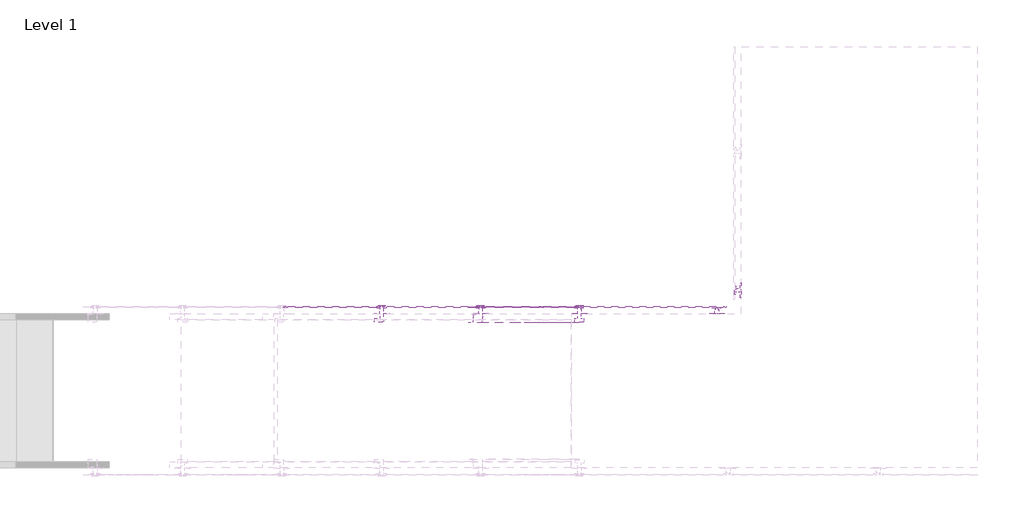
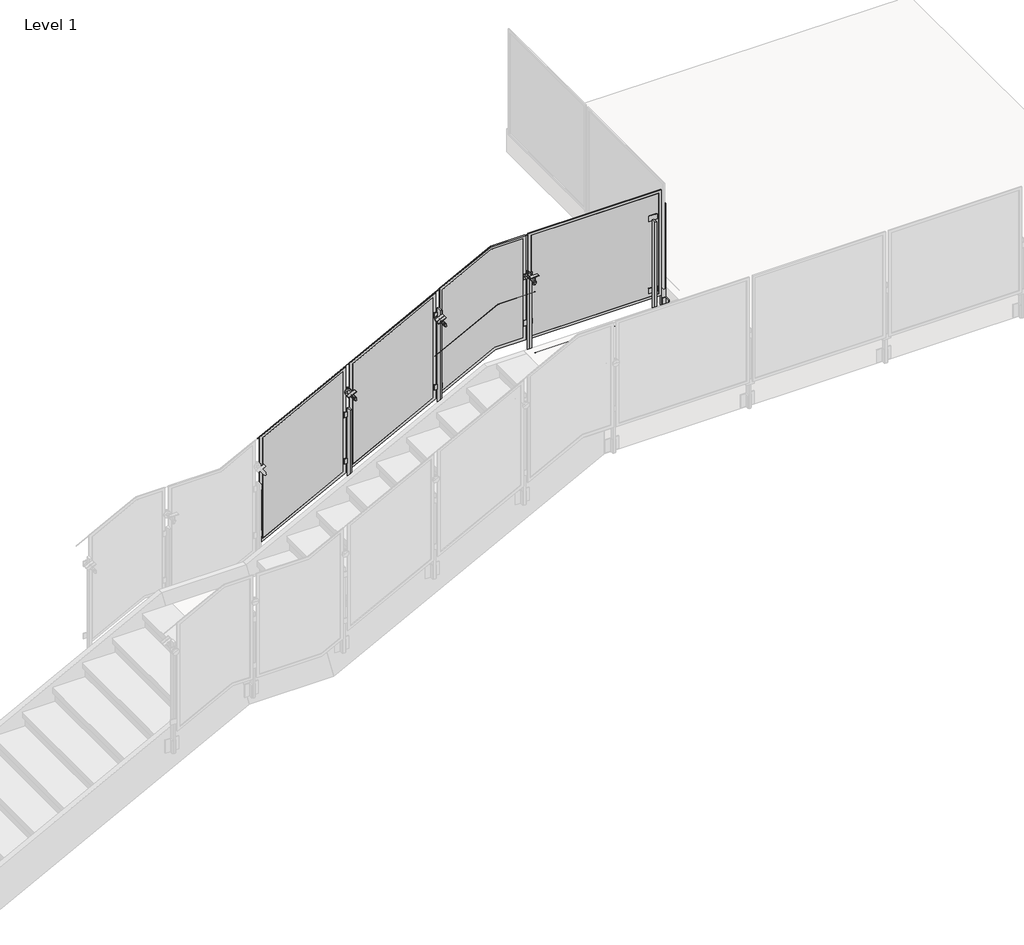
# One storey, part 20 of 28: 4 railings, 3 proxies.
"""IFC4 building model written with IfcOpenShell, lengths in millimetres."""

from ifc_helpers import new_model, si_unit, point, frame, frame_2d, origin, place, context, project, spatial, polyline, circle_curve, ellipse_curve, trimmed, segment, composite_curve, outline, extrude, transform, mapped, element, save
from ifc_brep_helpers import plane_surface, cylinder_surface, advanced_brep
from components import building_element_proxy_f0dd287b, building_element_proxy_bd17ef1f, building_element_proxy_1a12bf55, standard_pp01_b38831fd

model = new_model("IFC4")

# Units and contexts
model_context = context("Model", 3, world=origin())
ifc_project = project(units=[si_unit("LENGTHUNIT", "METRE", prefix="MILLI")], contexts=[model_context])

# Site, building, storey
site = spatial("IfcSite", under=ifc_project)
building = spatial("IfcBuilding", under=site)
storey = spatial("IfcBuildingStorey", under=building, Name="Level 1", Elevation=0.0)

# Proxies
placement = place(None, origin())
building_element_proxy_shape = building_element_proxy_f0dd287b(model_context)
element("IfcBuildingElementProxy", 1, Name="Baluster-End-Post-VIVA-STRUC-Top Mount : WELDED Fascia MOUNT STRUC_STRAIGHT", ObjectType="Baluster-End-Post-VIVA-STRUC-Top Mount : WELDED Fascia MOUNT STRUC_STRAIGHT", at=placement, inside=storey, context=model_context, shape_type="MappedRepresentation", body=[
    mapped(building_element_proxy_shape, transform((-11019.5500753, -2683.1405696, 3047.492), x_axis=(-1.0, 0.0, 0.0), y_axis=(0.0, -1.0, 0.0), z_axis=(0.0, 0.0, 1.0))),
])
building_element_proxy_2_shape = building_element_proxy_bd17ef1f(model_context)
element("IfcBuildingElementProxy", 2, Name="Baluster-End-Post-VIVA-STRUC-Top Mount : WELDED Fascia MOUNT STRUC_STRAIGHT", ObjectType="Baluster-End-Post-VIVA-STRUC-Top Mount : WELDED Fascia MOUNT STRUC_STRAIGHT", at=placement, inside=storey, context=model_context, shape_type="MappedRepresentation", body=[
    mapped(building_element_proxy_2_shape, transform((-10837.0049728, -2506.3726508, 3047.492), x_axis=(0.0, -1.0, 0.0), y_axis=(1.0, 0.0, 0.0), z_axis=(0.0, 0.0, 1.0))),
])
building_element_proxy_3_shape = building_element_proxy_1a12bf55(model_context)
element("IfcBuildingElementProxy", 3, Name="Baluster-End-Post-VIVA-STRUC-Top Mount-Stair : WELDED Fascia MOUNT STRUC_STAIR", ObjectType="Baluster-End-Post-VIVA-STRUC-Top Mount-Stair : WELDED Fascia MOUNT STRUC_STAIR", at=placement, inside=storey, context=model_context, shape_type="MappedRepresentation", body=[
    mapped(building_element_proxy_3_shape, transform((-12280.6217998, -2683.1341206, 3645.5604), x_axis=(-1.0, 0.0, 0.0), y_axis=(0.0, -1.0, 0.0), z_axis=(0.0, 0.0, 1.0))),
])

# Railings
element("IfcRailing", 4, ObjectType="Metal-Panel-VIVA-STRUC-Fascia-Straight", at=placement, inside=storey, context=model_context, shape_type="SweptSolid", body=[
    extrude(outline(composite_curve([segment(trimmed(circle_curve(frame_2d((-2683.1405696, 3047.746)), 0.254), [point((-2683.3945696, 3047.746))], [point((-2682.8865696, 3047.746))], False, "CARTESIAN"), True, "CONTINUOUS"), segment(trimmed(circle_curve(frame_2d((-2683.1405696, 3047.746)), 0.254), [point((-2682.8865696, 3047.746))], [point((-2683.3945696, 3047.746))], False, "CARTESIAN"), True, "CONTINUOUS")], self_intersect=False)), frame((-12289.5500753, 0.0, 0.0), z_axis=(1.0, 0.0, 0.0), x_axis=(0.0, 1.0, 0.0)), (0.0, 0.0, 1.0), 1270.0),
    extrude(outline(composite_curve([segment(trimmed(circle_curve(frame_2d((-2683.1405696, 3047.746)), 0.254), [point((-2683.3945696, 3047.746))], [point((-2682.8865696, 3047.746))], False, "CARTESIAN"), True, "CONTINUOUS"), segment(trimmed(circle_curve(frame_2d((-2683.1405696, 3047.746)), 0.254), [point((-2682.8865696, 3047.746))], [point((-2683.3945696, 3047.746))], False, "CARTESIAN"), True, "CONTINUOUS")], self_intersect=False)), frame((-12289.5500753, 0.0, 0.0), z_axis=(1.0, 0.0, 0.0), x_axis=(0.0, 1.0, 0.0)), (0.0, 0.0, 1.0), 1270.0),
    extrude(outline(polyline([(-12248.7236183, -2553.4467696), (-11060.3765322, -2553.4467696), (-11060.3765322, -2556.4467696), (-12248.7236183, -2556.4467696), (-12248.7236183, -2553.4467696)])), frame((0.0, 0.0, 3124.1959569), z_axis=(0.0, 0.0, 1.0), x_axis=(1.0, 0.0, 0.0)), (0.0, 0.0, 1.0), 990.5826861),
    extrude(outline(polyline([(4140.1786431, -12274.1236183), (3098.7959569, -12274.1236183), (3098.7959569, -11034.9765322), (4140.1786431, -11034.9765322), (4140.1786431, -12274.1236183)]), holes=[polyline([(3124.1959569, -12248.7236183), (4114.7786431, -12248.7236183), (4114.7786431, -11060.3765322), (3124.1959569, -11060.3765322), (3124.1959569, -12248.7236183)])]), frame((0.0, -2556.4467696, 0.0), z_axis=(0.0, 1.0, 0.0), x_axis=(0.0, 0.0, 1.0)), (0.0, 0.0, 1.0), 9.525),
])
element("IfcRailing", 5, ObjectType="Metal-Panel-VIVA-STRUC-Fascia-Stairs-Upper", at=placement, inside=storey, context=model_context, shape_type="SolidModel", body=[
    advanced_brep(
    [(-14795.2265621, -2552.3953206, 3002.0818907), (-14795.2265621, -2551.3953206, 3002.0818907), (-13118.8265621, -2552.3953206, 3872.9390336), (-13118.8265621, -2551.3953206, 3872.9390336)],
    [
        (0, 1, ellipse_curve(frame((-14795.2265621, -2551.8953206, 3002.0818907), z_axis=(-1.0, 0.0, 0.0), x_axis=(0.0, 0.0, -1.0)), 0.5634403, 0.5)),
        (1, 0, ellipse_curve(frame((-14795.2265621, -2551.8953206, 3002.0818907), z_axis=(-1.0, 0.0, 0.0), x_axis=(0.0, 0.0, -1.0)), 0.5634403, 0.5)),
        (2, 3, ellipse_curve(frame((-13118.8265621, -2551.8953206, 3872.9390336), z_axis=(1.0, 0.0, 0.0), x_axis=(0.0, 0.0, -1.0)), 0.5634403, 0.5)),
        (3, 2, ellipse_curve(frame((-13118.8265621, -2551.8953206, 3872.9390336), z_axis=(1.0, 0.0, 0.0), x_axis=(0.0, 0.0, -1.0)), 0.5634403, 0.5)),
        (0, 2),
        (3, 1),
    ],
    [
        plane_surface(frame((-14795.2265621, -2551.8953206, 3002.6453311), z_axis=(-1.0, 0.0, 0.0), x_axis=(0.0, 1.0, 0.0))),
        plane_surface(frame((-13118.8265621, -2551.8953206, 3873.5024739), z_axis=(1.0, 0.0, 0.0), x_axis=(0.0, 1.0, 0.0))),
        cylinder_surface(frame((-14794.9960672, -2551.8953206, 3002.2016284), z_axis=(-0.8874054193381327, 0.0, -0.46098982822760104), x_axis=(0.0, 1.0, 0.0)), 0.5),
    ],
    [
        (0, [[1, 2]]),
        (1, [[3, 4]]),
        (2, [[-1, 5, -4, 6]]),
        (2, [[-2, -6, -3, -5]]),
    ],
),
    extrude(outline(polyline([(2443.6978914, -13912.5806052), (2832.9488452, -13163.2725191), (3819.3458682, -13163.2725191), (3430.0949144, -13912.5806052), (2443.6978914, -13912.5806052)])), frame((0.0, -2556.4403206, 0.0), z_axis=(0.0, 1.0, 0.0), x_axis=(0.0, 0.0, 1.0)), (0.0, 0.0, 1.0), 3.0),
    extrude(outline(polyline([(3445.5228778, -13937.9806052), (2401.8803176, -13937.9806052), (2817.5208818, -13137.8725191), (3861.1634421, -13137.8725191), (3445.5228778, -13937.9806052)]), holes=[polyline([(2443.6978914, -13912.5806052), (3430.0949144, -13912.5806052), (3819.3458682, -13163.2725191), (2832.9488452, -13163.2725191), (2443.6978914, -13912.5806052)])]), frame((0.0, -2556.4403206, 0.0), z_axis=(0.0, 1.0, 0.0), x_axis=(0.0, 0.0, 1.0)), (0.0, 0.0, 1.0), 9.525),
    extrude(outline(composite_curve([segment(trimmed(circle_curve(frame_2d((19.0451472, -1e-07)), 22.0448871), [point((-2.99974, -1e-07))], [point((24.3499072, 21.3971158))], False, "CARTESIAN"), True, "CONTINUOUS"), segment(polyline([(24.3499072, 21.3971158), (23.6280664, 18.4855208)]), True, "CONTINUOUS"), segment(trimmed(circle_curve(frame_2d((19.0451472, -1e-07)), 19.0451471), [point((23.6280664, 18.4855208))], [point((0.0, 0.0))], True, "CARTESIAN"), True, "CONTINUOUS"), segment(polyline([(0.0, 0.0), (-2.99974, -1e-07)]), True, "CONTINUOUS")], self_intersect=False)), frame((-14019.5142726, -2650.6589206, 3210.0400993), z_axis=(0.8874054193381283, 0.0, 0.46098982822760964), x_axis=(-0.28405456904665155, -0.7876022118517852, 0.5468050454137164)), (0.0, 0.0, 1.0), 79.1184357),
    advanced_brep(
    [(-13944.6293845, -2665.6589206, 3151.7003356), (-13944.6293845, -2658.5151706, 3151.7003356), (-13944.6293845, -2672.8026706, 3151.7003356), (-13980.4886307, -2658.5151706, 3220.7293846), (-13980.4886307, -2665.6589206, 3220.7293846), (-13980.4886307, -2672.8026706, 3220.7293846)],
    [
        (0, 1),
        (1, 2, circle_curve(frame((-13944.6293845, -2665.6589206, 3151.7003356), z_axis=(0.46098982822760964, 0.0, -0.8874054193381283), x_axis=(0.0, -1.0, 0.0)), 7.14375)),
        (2, 0),
        (3, 4),
        (4, 5),
        (5, 3, circle_curve(frame((-13980.4886307, -2665.6589206, 3220.7293846), z_axis=(-0.46098982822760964, 0.0, 0.8874054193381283), x_axis=(0.0, -1.0, 0.0)), 7.14375)),
        (2, 1, circle_curve(frame((-13944.6293845, -2665.6589206, 3151.7003356), z_axis=(0.46098982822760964, 0.0, -0.8874054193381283), x_axis=(0.0, -1.0, 0.0)), 7.14375)),
        (3, 5, circle_curve(frame((-13980.4886307, -2665.6589206, 3220.7293846), z_axis=(-0.46098982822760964, 0.0, 0.8874054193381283), x_axis=(0.0, -1.0, 0.0)), 7.14375)),
        (1, 3),
        (5, 2),
    ],
    [
        plane_surface(frame((-13944.6293845, -2665.6589206, 3151.7003356), z_axis=(0.4609898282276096, 0.0, -0.8874054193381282), x_axis=(0.0, -1.0, 0.0))),
        plane_surface(frame((-13980.4886307, -2665.6589206, 3220.7293846), z_axis=(-0.4609898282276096, 0.0, 0.8874054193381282), x_axis=(0.0, -1.0, 0.0))),
        cylinder_surface(frame((-13827.6751846, -2665.6589206, 2926.5635008), z_axis=(0.46098982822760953, 0.0, -0.8874054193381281), x_axis=(0.0, -1.0, 0.0)), 7.14375),
    ],
    [
        (0, [[1, 2, 3]]),
        (1, [[4, 5, 6]]),
        (0, [[-3, 7, -1]]),
        (1, [[-5, -4, 8]]),
        (2, [[9, -6, 10, -2]]),
        (2, [[-10, -8, -9, -7]]),
    ],
),
    advanced_brep(
    [(-13930.2601962, -2546.9139206, 3189.4695082), (-13951.3915377, -2546.9139206, 3178.4921879), (-13962.6615865, -2546.9139206, 3172.6376171), (-13983.7929281, -2546.9139206, 3161.6602968), (-13930.2601962, -2538.9764206, 3189.4695082), (-13983.7929281, -2538.9764206, 3161.6602968), (-13930.2601962, -2564.3764206, 3189.4695082), (-13945.7565133, -2564.3764206, 3181.4194733), (-13968.2966109, -2564.3764206, 3169.7103317), (-13983.7929281, -2564.3764206, 3161.6602968), (-13930.2601962, -2556.4389206, 3189.4695082), (-13983.7929281, -2556.4389206, 3161.6602968), (-13957.0265621, -2538.9764206, 3175.5649025), (-13945.7565133, -2676.3776643, 3181.4194733), (-13957.0265621, -2676.3776643, 3175.5649025), (-13968.2966109, -2676.3776643, 3169.7103317), (-13951.3915377, -2556.4389206, 3178.4921879), (-13962.6615865, -2556.4389206, 3172.6376171)],
    [
        (0, 1),
        (1, 2, circle_curve(frame((-13957.0265621, -2546.9139206, 3175.5649025), z_axis=(0.0, 1.0, 0.0), x_axis=(-0.8874054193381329, 0.0, -0.46098982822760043)), 6.35)),
        (2, 3),
        (3, 0, circle_curve(frame((-13957.0265621, -2546.9139206, 3175.5649025), z_axis=(0.0, -1.0, 0.0), x_axis=(-0.8874054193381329, 0.0, -0.46098982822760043)), 30.1625)),
        (4, 0),
        (3, 5),
        (5, 4, circle_curve(frame((-13957.0265621, -2538.9764206, 3175.5649025), z_axis=(0.0, -1.0, 0.0), x_axis=(-0.8874054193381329, 0.0, -0.46098982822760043)), 30.1625)),
        (6, 7),
        (7, 8, circle_curve(frame((-13957.0265621, -2564.3764206, 3175.5649025), z_axis=(0.0, 1.0, 0.0), x_axis=(-0.8874054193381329, 0.0, -0.46098982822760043)), 12.7)),
        (8, 9),
        (9, 6, circle_curve(frame((-13957.0265621, -2564.3764206, 3175.5649025), z_axis=(0.0, -1.0, 0.0), x_axis=(-0.8874054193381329, 0.0, -0.46098982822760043)), 30.1625)),
        (10, 6),
        (9, 11),
        (11, 10, circle_curve(frame((-13957.0265621, -2556.4389206, 3175.5649025), z_axis=(0.0, -1.0, 0.0), x_axis=(-0.8874054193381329, 0.0, -0.46098982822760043)), 30.1625)),
        (3, 0, circle_curve(frame((-13957.0265621, -2546.9139206, 3175.5649025), z_axis=(0.0, 1.0, 0.0), x_axis=(-0.8874054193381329, 0.0, -0.46098982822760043)), 30.1625)),
        (4, 5, circle_curve(frame((-13957.0265621, -2538.9764206, 3175.5649025), z_axis=(0.0, -1.0, 0.0), x_axis=(-0.8874054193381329, 0.0, -0.46098982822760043)), 30.1625)),
        (12, 4),
        (5, 12),
        (13, 14),
        (14, 15),
        (15, 13, circle_curve(frame((-13957.0265621, -2676.3776643, 3175.5649025), z_axis=(0.0, -1.0, 0.0), x_axis=(-0.8874054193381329, 0.0, -0.46098982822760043)), 12.7)),
        (13, 15, circle_curve(frame((-13957.0265621, -2676.3776643, 3175.5649025), z_axis=(0.0, -1.0, 0.0), x_axis=(-0.8874054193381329, 0.0, -0.46098982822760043)), 12.7)),
        (7, 13),
        (15, 8),
        (7, 8, circle_curve(frame((-13957.0265621, -2564.3764206, 3175.5649025), z_axis=(0.0, -1.0, 0.0), x_axis=(-0.8874054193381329, 0.0, -0.46098982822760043)), 12.7)),
        (6, 9, circle_curve(frame((-13957.0265621, -2564.3764206, 3175.5649025), z_axis=(0.0, -1.0, 0.0), x_axis=(-0.8874054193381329, 0.0, -0.46098982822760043)), 30.1625)),
        (10, 11, circle_curve(frame((-13957.0265621, -2556.4389206, 3175.5649025), z_axis=(0.0, -1.0, 0.0), x_axis=(-0.8874054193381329, 0.0, -0.46098982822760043)), 30.1625)),
        (16, 10),
        (11, 17),
        (17, 16, circle_curve(frame((-13957.0265621, -2556.4389206, 3175.5649025), z_axis=(0.0, -1.0, 0.0), x_axis=(-0.8874054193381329, 0.0, -0.46098982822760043)), 6.35)),
        (16, 17, circle_curve(frame((-13957.0265621, -2556.4389206, 3175.5649025), z_axis=(0.0, -1.0, 0.0), x_axis=(-0.8874054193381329, 0.0, -0.46098982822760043)), 6.35)),
        (1, 16),
        (17, 2),
        (1, 2, circle_curve(frame((-13957.0265621, -2546.9139206, 3175.5649025), z_axis=(0.0, -1.0, 0.0), x_axis=(-0.8874054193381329, 0.0, -0.46098982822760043)), 6.35)),
    ],
    [
        plane_surface(frame((-13957.0265621, -2546.9139206, 3175.5649025), z_axis=(0.0, -1.0, 0.0), x_axis=(-0.8874054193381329, 0.0, -0.46098982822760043))),
        cylinder_surface(frame((-13957.0265621, -1032.4389206, 3175.5649025), z_axis=(0.0, 1.0, 0.0), x_axis=(-0.8874054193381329, 0.0, -0.46098982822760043)), 30.1625),
        plane_surface(frame((-13957.0265621, -2564.3764206, 3175.5649025), z_axis=(0.0, -1.0, 0.0), x_axis=(-0.8874054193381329, 0.0, -0.46098982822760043))),
        plane_surface(frame((-13957.0265621, -2538.9764206, 3175.5649025), z_axis=(0.0, 1.0, 0.0), x_axis=(-0.8874054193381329, 0.0, -0.46098982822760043))),
        plane_surface(frame((-13957.0265621, -2676.3776643, 3175.5649025), z_axis=(0.0, -1.0, 0.0), x_axis=(-0.8874054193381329, 0.0, -0.46098982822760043))),
        cylinder_surface(frame((-13957.0265621, -1032.4389206, 3175.5649025), z_axis=(0.0, 1.0, 0.0), x_axis=(-0.8874054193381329, 0.0, -0.46098982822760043)), 12.7),
        plane_surface(frame((-13957.0265621, -2556.4389206, 3175.5649025), z_axis=(0.0, 1.0, 0.0), x_axis=(-0.8874054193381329, 0.0, -0.46098982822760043))),
        cylinder_surface(frame((-13957.0265621, -1032.4389206, 3175.5649025), z_axis=(0.0, 1.0, 0.0), x_axis=(-0.8874054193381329, 0.0, -0.46098982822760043)), 6.35),
    ],
    [
        (0, [[1, 2, 3, 4]]),
        (1, [[5, -4, 6, 7]]),
        (2, [[8, 9, 10, 11]]),
        (1, [[12, -11, 13, 14]]),
        (1, [[-6, 15, -5, 16]]),
        (3, [[17, -7, 18]]),
        (3, [[-18, -16, -17]]),
        (4, [[19, 20, 21]]),
        (4, [[-20, -19, 22]]),
        (5, [[23, -21, 24, -9]]),
        (5, [[-24, -22, -23, 25]]),
        (2, [[-10, -25, -8, 26]]),
        (1, [[-13, -26, -12, 27]]),
        (6, [[28, -14, 29, 30]]),
        (6, [[-29, -27, -28, 31]]),
        (7, [[32, -30, 33, -2]]),
        (7, [[-33, -31, -32, 34]]),
        (0, [[-3, -34, -1, -15]]),
    ],
),
    extrude(outline(polyline([(-13995.1272814, -2563.5509206), (-13995.1272814, -2556.4389206), (-13918.9258429, -2556.4389206), (-13918.9258429, -2563.5509206), (-13995.1272814, -2563.5509206)])), frame((0.0, 0.0, 2931.2507143), z_axis=(0.0, 0.0, 1.0), x_axis=(1.0, 0.0, 0.0)), (0.0, 0.0, 1.0), 50.8),
    extrude(outline(polyline([(-13995.1272814, -2563.5509206), (-13995.1272814, -2556.4389206), (-13918.9258429, -2556.4389206), (-13918.9258429, -2563.5509206), (-13995.1272814, -2563.5509206)])), frame((0.0, 0.0, 2474.0507143), z_axis=(0.0, 0.0, 1.0), x_axis=(1.0, 0.0, 0.0)), (0.0, 0.0, 1.0), 50.8),
    extrude(outline(polyline([(-13949.0911538, -2569.3929206), (-13941.0901538, -2569.3929206), (-13941.0901538, -2603.1749206), (-13893.5306322, -2603.1749206), (-13893.5306322, -2611.3029206), (-13949.0911538, -2611.3029206), (-13949.0911538, -2569.3929206)])), frame((0.0, 0.0, 2178.6995143), z_axis=(0.0, 0.0, 1.0), x_axis=(1.0, 0.0, 0.0)), (0.0, 0.0, 1.0), 127.0),
    extrude(outline(polyline([(-13964.9661538, -2569.3929206), (-13964.9661538, -2611.3029206), (-14020.5266753, -2611.3029206), (-14020.5266753, -2603.1749206), (-13972.9671538, -2603.1749206), (-13972.9671538, -2569.3929206), (-13964.9661538, -2569.3929206)])), frame((0.0, 0.0, 2178.6995143), z_axis=(0.0, 0.0, 1.0), x_axis=(1.0, 0.0, 0.0)), (0.0, 0.0, 1.0), 127.0),
    extrude(outline(polyline([(-13964.9661538, -2608.0009206), (-13964.9661538, -2563.5509206), (-13949.0869705, -2563.5509206), (-13949.0869705, -2608.0009206), (-13964.9661538, -2608.0009206)])), frame((0.0, 0.0, 2178.6995143), z_axis=(0.0, 0.0, 1.0), x_axis=(1.0, 0.0, 0.0)), (0.0, 0.0, 1.0), 842.9752),
    extrude(outline(polyline([(2008.26932, -14750.7806052), (2397.5202738, -14001.4725191), (3383.9172968, -14001.4725191), (2994.666343, -14750.7806052), (2008.26932, -14750.7806052)])), frame((0.0, -2556.4403206, 0.0), z_axis=(0.0, 1.0, 0.0), x_axis=(0.0, 0.0, 1.0)), (0.0, 0.0, 1.0), 3.0),
    extrude(outline(polyline([(3010.0943064, -14776.1806052), (1966.4517462, -14776.1806052), (2382.0923104, -13976.0725191), (3425.7348706, -13976.0725191), (3010.0943064, -14776.1806052)]), holes=[polyline([(2008.26932, -14750.7806052), (2994.666343, -14750.7806052), (3383.9172968, -14001.4725191), (2397.5202738, -14001.4725191), (2008.26932, -14750.7806052)])]), frame((0.0, -2556.4403206, 0.0), z_axis=(0.0, 1.0, 0.0), x_axis=(0.0, 0.0, 1.0)), (0.0, 0.0, 1.0), 9.525),
])
element("IfcRailing", 6, ObjectType="Metal-Panel-VIVA-STRUC-Fascia-Stairs-Landing-Upper", at=placement, inside=storey, context=model_context, shape_type="SolidModel", body=[
    advanced_brep(
    [(-13220.4217998, -2683.3881206, 3339.0078994), (-13220.4217998, -2682.8801206, 3339.0078994), (-12629.8192861, -2683.3881206, 3645.8144), (-12629.8192861, -2682.8801206, 3645.8144), (-12280.6217998, -2683.3881206, 3645.8144), (-12280.6217998, -2682.8801206, 3645.8144)],
    [
        (0, 1, ellipse_curve(frame((-13220.4217998, -2683.1341206, 3339.0078994), z_axis=(-1.0, 0.0, 0.0), x_axis=(0.0, 0.0, -0.9999999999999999)), 0.2862277, 0.254)),
        (1, 0, ellipse_curve(frame((-13220.4217998, -2683.1341206, 3339.0078994), z_axis=(-1.0, 0.0, 0.0), x_axis=(0.0, 0.0, -0.9999999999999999)), 0.2862277, 0.254)),
        (0, 2),
        (2, 3, ellipse_curve(frame((-12629.8192861, -2683.1341206, 3645.8144), z_axis=(-0.9714436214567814, 0.0, -0.23727050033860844), x_axis=(0.23727050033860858, 0.0, -0.9714436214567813)), 0.2614665, 0.254)),
        (3, 1),
        (3, 2, ellipse_curve(frame((-12629.8192861, -2683.1341206, 3645.8144), z_axis=(-0.9714436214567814, 0.0, -0.23727050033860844), x_axis=(0.23727050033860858, 0.0, -0.9714436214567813)), 0.2614665, 0.254)),
        (4, 5, circle_curve(frame((-12280.6217998, -2683.1341206, 3645.8144), z_axis=(1.0, 0.0, 0.0), x_axis=(0.0, 1.0, 0.0)), 0.254)),
        (5, 4, circle_curve(frame((-12280.6217998, -2683.1341206, 3645.8144), z_axis=(1.0, 0.0, 0.0), x_axis=(0.0, 1.0, 0.0)), 0.254)),
        (2, 4),
        (5, 3),
    ],
    [
        plane_surface(frame((-13220.4217998, -2683.1341206, 3339.2941271), z_axis=(-1.0, 0.0, 0.0), x_axis=(0.0, 1.0, 0.0))),
        cylinder_surface(frame((-13220.3047084, -2683.1341206, 3339.0687261), z_axis=(-0.8874054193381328, 0.0, -0.4609898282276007), x_axis=(0.0, 1.0, 0.0)), 0.254),
        plane_surface(frame((-12280.6217998, -2683.1341206, 3646.0684), z_axis=(1.0, 0.0, 0.0), x_axis=(0.0, 1.0, 0.0))),
        cylinder_surface(frame((-12629.8813244, -2683.1341206, 3645.8144), z_axis=(-1.0, 0.0, 0.0), x_axis=(0.0, 1.0, 0.0)), 0.254),
    ],
    [
        (0, [[1, 2]]),
        (1, [[-1, 3, 4, 5]]),
        (1, [[-2, -5, 6, -3]]),
        (2, [[7, 8]]),
        (3, [[-4, 9, -8, 10]]),
        (3, [[-6, -10, -7, -9]]),
    ],
),
    advanced_brep(
    [(-13220.4217998, -2552.3953206, 3820.1622867), (-13220.4217998, -2551.3953206, 3820.1622867), (-12629.7592018, -2552.3953206, 4127.0), (-12629.7592018, -2551.3953206, 4127.0), (-12280.6217998, -2552.3953206, 4127.0), (-12280.6217998, -2551.3953206, 4127.0)],
    [
        (0, 1, ellipse_curve(frame((-13220.4217998, -2551.8953206, 3820.1622867), z_axis=(-1.0, 0.0, 0.0), x_axis=(0.0, 0.0, -0.9999999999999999)), 0.5634403, 0.5)),
        (1, 0, ellipse_curve(frame((-13220.4217998, -2551.8953206, 3820.1622867), z_axis=(-1.0, 0.0, 0.0), x_axis=(0.0, 0.0, -0.9999999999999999)), 0.5634403, 0.5)),
        (0, 2),
        (2, 3, ellipse_curve(frame((-12629.7592018, -2551.8953206, 4127.0), z_axis=(-0.9714436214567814, 0.0, -0.23727050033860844), x_axis=(0.23727050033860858, 0.0, -0.9714436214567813)), 0.5146979, 0.5)),
        (3, 1),
        (3, 2, ellipse_curve(frame((-12629.7592018, -2551.8953206, 4127.0), z_axis=(-0.9714436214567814, 0.0, -0.23727050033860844), x_axis=(0.23727050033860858, 0.0, -0.9714436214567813)), 0.5146979, 0.5)),
        (4, 5, circle_curve(frame((-12280.6217998, -2551.8953206, 4127.0), z_axis=(1.0, 0.0, 0.0), x_axis=(0.0, 1.0, 0.0)), 0.5)),
        (5, 4, circle_curve(frame((-12280.6217998, -2551.8953206, 4127.0), z_axis=(1.0, 0.0, 0.0), x_axis=(0.0, 1.0, 0.0)), 0.5)),
        (2, 4),
        (5, 3),
    ],
    [
        plane_surface(frame((-13220.4217998, -2551.8953206, 3820.7257271), z_axis=(-1.0, 0.0, 0.0), x_axis=(0.0, 1.0, 0.0))),
        cylinder_surface(frame((-13220.1913049, -2551.8953206, 3820.2820244), z_axis=(-0.8874054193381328, 0.0, -0.4609898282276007), x_axis=(0.0, 1.0, 0.0)), 0.5),
        plane_surface(frame((-12280.6217998, -2551.8953206, 4127.5), z_axis=(1.0, 0.0, 0.0), x_axis=(0.0, 1.0, 0.0))),
        cylinder_surface(frame((-12629.8813244, -2551.8953206, 4127.0), z_axis=(-1.0, 0.0, 0.0), x_axis=(0.0, 1.0, 0.0)), 0.5),
    ],
    [
        (0, [[1, 2]]),
        (1, [[-1, 3, 4, 5]]),
        (1, [[-2, -5, 6, -3]]),
        (2, [[7, 8]]),
        (3, [[-4, 9, -8, 10]]),
        (3, [[-6, -10, -7, -9]]),
    ],
),
    extrude(outline(composite_curve([segment(trimmed(circle_curve(frame_2d((19.0451471, 0.0)), 22.0448871), [point((-2.9997401, 0.0))], [point((24.3499072, 21.3971159))], False, "CARTESIAN"), True, "CONTINUOUS"), segment(polyline([(24.3499072, 21.3971159), (23.6280664, 18.4855208)]), True, "CONTINUOUS"), segment(trimmed(circle_curve(frame_2d((19.0451471, 0.0)), 19.0451471), [point((23.6280664, 18.4855208))], [point((0.0, 0.0))], True, "CARTESIAN"), True, "CONTINUOUS"), segment(polyline([(0.0, 0.0), (-2.9997401, 0.0)]), True, "CONTINUOUS")], self_intersect=False)), frame((-13181.3095103, -2650.6589206, 3645.4711447), z_axis=(0.8874054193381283, 0.0, 0.46098982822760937), x_axis=(-0.2840545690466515, -0.7876022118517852, 0.5468050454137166)), (0.0, 0.0, 1.0), 79.1184357),
    advanced_brep(
    [(-13106.4246222, -2665.6589206, 3587.1313809), (-13106.4246222, -2658.5151706, 3587.1313809), (-13106.4246222, -2672.8026706, 3587.1313809), (-13142.2838684, -2658.5151706, 3656.16043), (-13142.2838684, -2665.6589206, 3656.16043), (-13142.2838684, -2672.8026706, 3656.16043)],
    [
        (0, 1),
        (1, 2, circle_curve(frame((-13106.4246222, -2665.6589206, 3587.1313809), z_axis=(0.4609898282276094, 0.0, -0.8874054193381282), x_axis=(0.0, -1.0, 0.0)), 7.14375)),
        (2, 0),
        (3, 4),
        (4, 5),
        (5, 3, circle_curve(frame((-13142.2838684, -2665.6589206, 3656.16043), z_axis=(-0.4609898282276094, 0.0, 0.8874054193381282), x_axis=(0.0, -1.0, 0.0)), 7.14375)),
        (2, 1, circle_curve(frame((-13106.4246222, -2665.6589206, 3587.1313809), z_axis=(0.4609898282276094, 0.0, -0.8874054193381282), x_axis=(0.0, -1.0, 0.0)), 7.14375)),
        (3, 5, circle_curve(frame((-13142.2838684, -2665.6589206, 3656.16043), z_axis=(-0.4609898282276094, 0.0, 0.8874054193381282), x_axis=(0.0, -1.0, 0.0)), 7.14375)),
        (1, 3),
        (5, 2),
    ],
    [
        plane_surface(frame((-13106.4246222, -2665.6589206, 3587.1313809), z_axis=(0.4609898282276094, 0.0, -0.8874054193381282), x_axis=(0.0, -1.0, 0.0))),
        plane_surface(frame((-13142.2838684, -2665.6589206, 3656.16043), z_axis=(-0.4609898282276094, 0.0, 0.8874054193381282), x_axis=(0.0, -1.0, 0.0))),
        cylinder_surface(frame((-12989.4704223, -2665.6589206, 3361.9945462), z_axis=(0.4609898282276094, 0.0, -0.8874054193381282), x_axis=(0.0, -1.0, 0.0)), 7.14375),
    ],
    [
        (0, [[1, 2, 3]]),
        (1, [[4, 5, 6]]),
        (0, [[-3, 7, -1]]),
        (1, [[-5, -4, 8]]),
        (2, [[9, -6, 10, -2]]),
        (2, [[-10, -8, -9, -7]]),
    ],
),
    advanced_brep(
    [(-13092.0554339, -2546.9139206, 3624.9005535), (-13113.1867754, -2546.9139206, 3613.9232333), (-13124.4568242, -2546.9139206, 3608.0686624), (-13145.5881658, -2546.9139206, 3597.0913422), (-13092.0554339, -2538.9764206, 3624.9005535), (-13145.5881658, -2538.9764206, 3597.0913422), (-13092.0554339, -2564.3764206, 3624.9005535), (-13107.551751, -2564.3764206, 3616.8505187), (-13130.0918486, -2564.3764206, 3605.141377), (-13145.5881658, -2564.3764206, 3597.0913422), (-13092.0554339, -2556.4389206, 3624.9005535), (-13145.5881658, -2556.4389206, 3597.0913422), (-13118.8217998, -2538.9764206, 3610.9959479), (-13107.551751, -2676.3776643, 3616.8505187), (-13118.8217998, -2676.3776643, 3610.9959479), (-13130.0918486, -2676.3776643, 3605.141377), (-13113.1867754, -2556.4389206, 3613.9232333), (-13124.4568242, -2556.4389206, 3608.0686624)],
    [
        (0, 1),
        (1, 2, circle_curve(frame((-13118.8217998, -2546.9139206, 3610.9959479), z_axis=(0.0, 1.0, 0.0), x_axis=(-0.887405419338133, 0.0, -0.4609898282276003)), 6.35)),
        (2, 3),
        (3, 0, circle_curve(frame((-13118.8217998, -2546.9139206, 3610.9959479), z_axis=(0.0, -1.0, 0.0), x_axis=(-0.887405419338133, 0.0, -0.4609898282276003)), 30.1625)),
        (4, 0),
        (3, 5),
        (5, 4, circle_curve(frame((-13118.8217998, -2538.9764206, 3610.9959479), z_axis=(0.0, -1.0, 0.0), x_axis=(-0.887405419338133, 0.0, -0.4609898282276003)), 30.1625)),
        (6, 7),
        (7, 8, circle_curve(frame((-13118.8217998, -2564.3764206, 3610.9959479), z_axis=(0.0, 1.0, 0.0), x_axis=(-0.887405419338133, 0.0, -0.4609898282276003)), 12.7)),
        (8, 9),
        (9, 6, circle_curve(frame((-13118.8217998, -2564.3764206, 3610.9959479), z_axis=(0.0, -1.0, 0.0), x_axis=(-0.887405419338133, 0.0, -0.4609898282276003)), 30.1625)),
        (10, 6),
        (9, 11),
        (11, 10, circle_curve(frame((-13118.8217998, -2556.4389206, 3610.9959479), z_axis=(0.0, -1.0, 0.0), x_axis=(-0.887405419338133, 0.0, -0.4609898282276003)), 30.1625)),
        (3, 0, circle_curve(frame((-13118.8217998, -2546.9139206, 3610.9959479), z_axis=(0.0, 1.0, 0.0), x_axis=(-0.887405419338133, 0.0, -0.4609898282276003)), 30.1625)),
        (4, 5, circle_curve(frame((-13118.8217998, -2538.9764206, 3610.9959479), z_axis=(0.0, -1.0, 0.0), x_axis=(-0.887405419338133, 0.0, -0.4609898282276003)), 30.1625)),
        (12, 4),
        (5, 12),
        (13, 14),
        (14, 15),
        (15, 13, circle_curve(frame((-13118.8217998, -2676.3776643, 3610.9959479), z_axis=(0.0, -1.0, 0.0), x_axis=(-0.887405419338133, 0.0, -0.4609898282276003)), 12.7)),
        (13, 15, circle_curve(frame((-13118.8217998, -2676.3776643, 3610.9959479), z_axis=(0.0, -1.0, 0.0), x_axis=(-0.887405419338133, 0.0, -0.4609898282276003)), 12.7)),
        (7, 13),
        (15, 8),
        (7, 8, circle_curve(frame((-13118.8217998, -2564.3764206, 3610.9959479), z_axis=(0.0, -1.0, 0.0), x_axis=(-0.887405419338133, 0.0, -0.4609898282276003)), 12.7)),
        (6, 9, circle_curve(frame((-13118.8217998, -2564.3764206, 3610.9959479), z_axis=(0.0, -1.0, 0.0), x_axis=(-0.887405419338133, 0.0, -0.4609898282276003)), 30.1625)),
        (10, 11, circle_curve(frame((-13118.8217998, -2556.4389206, 3610.9959479), z_axis=(0.0, -1.0, 0.0), x_axis=(-0.887405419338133, 0.0, -0.4609898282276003)), 30.1625)),
        (16, 10),
        (11, 17),
        (17, 16, circle_curve(frame((-13118.8217998, -2556.4389206, 3610.9959479), z_axis=(0.0, -1.0, 0.0), x_axis=(-0.887405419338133, 0.0, -0.4609898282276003)), 6.35)),
        (16, 17, circle_curve(frame((-13118.8217998, -2556.4389206, 3610.9959479), z_axis=(0.0, -1.0, 0.0), x_axis=(-0.887405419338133, 0.0, -0.4609898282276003)), 6.35)),
        (1, 16),
        (17, 2),
        (1, 2, circle_curve(frame((-13118.8217998, -2546.9139206, 3610.9959479), z_axis=(0.0, -1.0, 0.0), x_axis=(-0.887405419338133, 0.0, -0.4609898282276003)), 6.35)),
    ],
    [
        plane_surface(frame((-13118.8217998, -2546.9139206, 3610.9959479), z_axis=(0.0, -1.0, 0.0), x_axis=(-0.887405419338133, 0.0, -0.4609898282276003))),
        cylinder_surface(frame((-13118.8217998, -1032.4389206, 3610.9959479), z_axis=(0.0, 1.0, 0.0), x_axis=(-0.887405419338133, 0.0, -0.4609898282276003)), 30.1625),
        plane_surface(frame((-13118.8217998, -2564.3764206, 3610.9959479), z_axis=(0.0, -1.0, 0.0), x_axis=(-0.887405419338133, 0.0, -0.4609898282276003))),
        plane_surface(frame((-13118.8217998, -2538.9764206, 3610.9959479), z_axis=(0.0, 1.0, 0.0), x_axis=(-0.887405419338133, 0.0, -0.4609898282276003))),
        plane_surface(frame((-13118.8217998, -2676.3776643, 3610.9959479), z_axis=(0.0, -1.0, 0.0), x_axis=(-0.887405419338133, 0.0, -0.4609898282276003))),
        cylinder_surface(frame((-13118.8217998, -1032.4389206, 3610.9959479), z_axis=(0.0, 1.0, 0.0), x_axis=(-0.887405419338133, 0.0, -0.4609898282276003)), 12.7),
        plane_surface(frame((-13118.8217998, -2556.4389206, 3610.9959479), z_axis=(0.0, 1.0, 0.0), x_axis=(-0.887405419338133, 0.0, -0.4609898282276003))),
        cylinder_surface(frame((-13118.8217998, -1032.4389206, 3610.9959479), z_axis=(0.0, 1.0, 0.0), x_axis=(-0.887405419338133, 0.0, -0.4609898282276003)), 6.35),
    ],
    [
        (0, [[1, 2, 3, 4]]),
        (1, [[5, -4, 6, 7]]),
        (2, [[8, 9, 10, 11]]),
        (1, [[12, -11, 13, 14]]),
        (1, [[-6, 15, -5, 16]]),
        (3, [[17, -7, 18]]),
        (3, [[-18, -16, -17]]),
        (4, [[19, 20, 21]]),
        (4, [[-20, -19, 22]]),
        (5, [[23, -21, 24, -9]]),
        (5, [[-24, -22, -23, 25]]),
        (2, [[-10, -25, -8, 26]]),
        (1, [[-13, -26, -12, 27]]),
        (6, [[28, -14, 29, 30]]),
        (6, [[-29, -27, -28, 31]]),
        (7, [[32, -30, 33, -2]]),
        (7, [[-33, -31, -32, 34]]),
        (0, [[-3, -34, -1, -15]]),
    ],
),
    extrude(outline(polyline([(-13156.9225191, -2563.5509206), (-13156.9225191, -2556.4389206), (-13080.7210806, -2556.4389206), (-13080.7210806, -2563.5509206), (-13156.9225191, -2563.5509206)])), frame((0.0, 0.0, 3620.6792857), z_axis=(0.0, 0.0, 1.0), x_axis=(1.0, 0.0, 0.0)), (0.0, 0.0, 1.0), 50.8),
    extrude(outline(polyline([(-13156.9225191, -2563.5509206), (-13156.9225191, -2556.4389206), (-13080.7210806, -2556.4389206), (-13080.7210806, -2563.5509206), (-13156.9225191, -2563.5509206)])), frame((0.0, 0.0, 2909.4792857), z_axis=(0.0, 0.0, 1.0), x_axis=(1.0, 0.0, 0.0)), (0.0, 0.0, 1.0), 50.8),
    extrude(outline(composite_curve([segment(trimmed(circle_curve(frame_2d((-19.0451471, 0.0)), 22.0448871), [point((2.9997401, 0.0))], [point((-24.3499072, -21.3971159))], False, "CARTESIAN"), True, "CONTINUOUS"), segment(polyline([(-24.3499072, -21.3971159), (-23.6280664, -18.4855208)]), True, "CONTINUOUS"), segment(trimmed(circle_curve(frame_2d((-19.0451471, 0.0)), 19.0451471), [point((-23.6280664, -18.4855208))], [point((0.0, 0.0))], True, "CARTESIAN"), True, "CONTINUOUS"), segment(polyline([(0.0, 0.0), (2.9997401, 0.0)]), True, "CONTINUOUS")], self_intersect=False)), frame((-13181.3095103, -2617.6389206, 3645.4711447), z_axis=(0.8874054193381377, 0.0, 0.46098982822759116), x_axis=(0.2840545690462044, 0.7876022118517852, -0.5468050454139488)), (0.0, 0.0, 1.0), 79.1184357),
    advanced_brep(
    [(-13106.4246222, -2632.6389206, 3587.1313809), (-13106.4246222, -2639.7826706, 3587.1313809), (-13106.4246222, -2625.4951706, 3587.1313809), (-13142.2838684, -2625.4951706, 3656.16043), (-13142.2838684, -2639.7826706, 3656.16043), (-13142.2838684, -2632.6389206, 3656.16043)],
    [
        (0, 1),
        (1, 2, circle_curve(frame((-13106.4246222, -2632.6389206, 3587.1313809), z_axis=(0.4609898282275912, 0.0, -0.8874054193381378), x_axis=(0.0, -1.0, 0.0)), 7.14375)),
        (2, 0),
        (3, 4, circle_curve(frame((-13142.2838684, -2632.6389206, 3656.16043), z_axis=(-0.4609898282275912, 0.0, 0.8874054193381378), x_axis=(0.0, -1.0, 0.0)), 7.14375)),
        (4, 5),
        (5, 3),
        (2, 1, circle_curve(frame((-13106.4246222, -2632.6389206, 3587.1313809), z_axis=(0.4609898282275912, 0.0, -0.8874054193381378), x_axis=(0.0, -1.0, 0.0)), 7.14375)),
        (4, 3, circle_curve(frame((-13142.2838684, -2632.6389206, 3656.16043), z_axis=(-0.4609898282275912, 0.0, 0.8874054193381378), x_axis=(0.0, -1.0, 0.0)), 7.14375)),
        (1, 4),
        (3, 2),
    ],
    [
        plane_surface(frame((-13106.4246222, -2632.6389206, 3587.1313809), z_axis=(0.4609898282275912, 0.0, -0.8874054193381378), x_axis=(0.0, -1.0, 0.0))),
        plane_surface(frame((-13142.2838684, -2632.6389206, 3656.16043), z_axis=(-0.4609898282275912, 0.0, 0.8874054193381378), x_axis=(0.0, -1.0, 0.0))),
        cylinder_surface(frame((-12989.4704223, -2632.6389206, 3361.9945462), z_axis=(0.4609898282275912, 0.0, -0.8874054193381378), x_axis=(0.0, -1.0, 0.0)), 7.14375),
    ],
    [
        (0, [[1, 2, 3]]),
        (1, [[4, 5, 6]]),
        (0, [[-3, 7, -1]]),
        (1, [[8, -6, -5]]),
        (2, [[-2, 9, -4, 10]]),
        (2, [[-7, -10, -8, -9]]),
    ],
),
    advanced_brep(
    [(-13145.5881658, -2546.9139206, 3597.0913422), (-13092.0554339, -2546.9139206, 3624.9005535), (-13113.1867754, -2546.9139206, 3613.9232333), (-13124.4568242, -2546.9139206, 3608.0686624), (-13145.5881658, -2538.9764206, 3597.0913422), (-13092.0554339, -2538.9764206, 3624.9005535), (-13145.5881658, -2564.3764206, 3597.0913422), (-13092.0554339, -2564.3764206, 3624.9005535), (-13107.551751, -2564.3764206, 3616.8505187), (-13130.0918486, -2564.3764206, 3605.141377), (-13145.5881658, -2556.4389206, 3597.0913422), (-13092.0554339, -2556.4389206, 3624.9005535), (-13118.8217998, -2538.9764206, 3610.9959479), (-13130.0918486, -2643.7514206, 3605.141377), (-13107.551751, -2643.7514206, 3616.8505187), (-13118.8217998, -2643.7514206, 3610.9959479), (-13124.4568242, -2556.4389206, 3608.0686624), (-13113.1867754, -2556.4389206, 3613.9232333)],
    [
        (0, 1, circle_curve(frame((-13118.8217998, -2546.9139206, 3610.9959479), z_axis=(0.0, -1.0, 0.0), x_axis=(0.887405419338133, 0.0, 0.4609898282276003)), 30.1625)),
        (1, 2),
        (2, 3, circle_curve(frame((-13118.8217998, -2546.9139206, 3610.9959479), z_axis=(0.0, 1.0, 0.0), x_axis=(0.887405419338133, 0.0, 0.4609898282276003)), 6.35)),
        (3, 0),
        (4, 5, circle_curve(frame((-13118.8217998, -2538.9764206, 3610.9959479), z_axis=(0.0, -1.0, 0.0), x_axis=(0.887405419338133, 0.0, 0.4609898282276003)), 30.1625)),
        (5, 1),
        (0, 4),
        (6, 7, circle_curve(frame((-13118.8217998, -2564.3764206, 3610.9959479), z_axis=(0.0, -1.0, 0.0), x_axis=(0.887405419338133, 0.0, 0.4609898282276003)), 30.1625)),
        (7, 8),
        (8, 9, circle_curve(frame((-13118.8217998, -2564.3764206, 3610.9959479), z_axis=(0.0, 1.0, 0.0), x_axis=(0.887405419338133, 0.0, 0.4609898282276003)), 12.7)),
        (9, 6),
        (10, 11, circle_curve(frame((-13118.8217998, -2556.4389206, 3610.9959479), z_axis=(0.0, -1.0, 0.0), x_axis=(0.887405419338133, 0.0, 0.4609898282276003)), 30.1625)),
        (11, 7),
        (6, 10),
        (5, 4, circle_curve(frame((-13118.8217998, -2538.9764206, 3610.9959479), z_axis=(0.0, -1.0, 0.0), x_axis=(0.887405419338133, 0.0, 0.4609898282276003)), 30.1625)),
        (0, 1, circle_curve(frame((-13118.8217998, -2546.9139206, 3610.9959479), z_axis=(0.0, 1.0, 0.0), x_axis=(0.887405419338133, 0.0, 0.4609898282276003)), 30.1625)),
        (12, 5),
        (4, 12),
        (13, 14, circle_curve(frame((-13118.8217998, -2643.7514206, 3610.9959479), z_axis=(0.0, -1.0, 0.0), x_axis=(0.887405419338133, 0.0, 0.4609898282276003)), 12.7)),
        (14, 15),
        (15, 13),
        (14, 13, circle_curve(frame((-13118.8217998, -2643.7514206, 3610.9959479), z_axis=(0.0, -1.0, 0.0), x_axis=(0.887405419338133, 0.0, 0.4609898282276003)), 12.7)),
        (8, 14),
        (13, 9),
        (8, 9, circle_curve(frame((-13118.8217998, -2564.3764206, 3610.9959479), z_axis=(0.0, -1.0, 0.0), x_axis=(0.887405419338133, 0.0, 0.4609898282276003)), 12.7)),
        (7, 6, circle_curve(frame((-13118.8217998, -2564.3764206, 3610.9959479), z_axis=(0.0, -1.0, 0.0), x_axis=(0.887405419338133, 0.0, 0.4609898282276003)), 30.1625)),
        (11, 10, circle_curve(frame((-13118.8217998, -2556.4389206, 3610.9959479), z_axis=(0.0, -1.0, 0.0), x_axis=(0.887405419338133, 0.0, 0.4609898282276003)), 30.1625)),
        (16, 17, circle_curve(frame((-13118.8217998, -2556.4389206, 3610.9959479), z_axis=(0.0, -1.0, 0.0), x_axis=(0.887405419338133, 0.0, 0.4609898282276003)), 6.35)),
        (17, 11),
        (10, 16),
        (17, 16, circle_curve(frame((-13118.8217998, -2556.4389206, 3610.9959479), z_axis=(0.0, -1.0, 0.0), x_axis=(0.887405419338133, 0.0, 0.4609898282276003)), 6.35)),
        (2, 17),
        (16, 3),
        (2, 3, circle_curve(frame((-13118.8217998, -2546.9139206, 3610.9959479), z_axis=(0.0, -1.0, 0.0), x_axis=(0.887405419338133, 0.0, 0.4609898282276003)), 6.35)),
    ],
    [
        plane_surface(frame((-13118.8217998, -2546.9139206, 3610.9959479), z_axis=(0.0, -1.0, 0.0), x_axis=(0.887405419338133, 0.0, 0.4609898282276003))),
        cylinder_surface(frame((-13118.8217998, -1032.4389206, 3610.9959479), z_axis=(0.0, 1.0, 0.0), x_axis=(0.887405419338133, 0.0, 0.4609898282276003)), 30.1625),
        plane_surface(frame((-13118.8217998, -2564.3764206, 3610.9959479), z_axis=(0.0, -1.0, 0.0), x_axis=(0.887405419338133, 0.0, 0.4609898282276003))),
        plane_surface(frame((-13118.8217998, -2538.9764206, 3610.9959479), z_axis=(0.0, 1.0, 0.0), x_axis=(0.887405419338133, 0.0, 0.4609898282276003))),
        plane_surface(frame((-13118.8217998, -2643.7514206, 3610.9959479), z_axis=(0.0, -1.0, 0.0), x_axis=(0.887405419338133, 0.0, 0.4609898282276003))),
        cylinder_surface(frame((-13118.8217998, -1032.4389206, 3610.9959479), z_axis=(0.0, 1.0, 0.0), x_axis=(0.887405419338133, 0.0, 0.4609898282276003)), 12.7),
        plane_surface(frame((-13118.8217998, -2556.4389206, 3610.9959479), z_axis=(0.0, 1.0, 0.0), x_axis=(0.887405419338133, 0.0, 0.4609898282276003))),
        cylinder_surface(frame((-13118.8217998, -1032.4389206, 3610.9959479), z_axis=(0.0, 1.0, 0.0), x_axis=(0.887405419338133, 0.0, 0.4609898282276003)), 6.35),
    ],
    [
        (0, [[1, 2, 3, 4]]),
        (1, [[5, 6, -1, 7]]),
        (2, [[8, 9, 10, 11]]),
        (1, [[12, 13, -8, 14]]),
        (1, [[15, -7, 16, -6]]),
        (3, [[17, -5, 18]]),
        (3, [[-18, -15, -17]]),
        (4, [[19, 20, 21]]),
        (4, [[22, -21, -20]]),
        (5, [[-10, 23, -19, 24]]),
        (5, [[25, -24, -22, -23]]),
        (2, [[26, -11, -25, -9]]),
        (1, [[27, -14, -26, -13]]),
        (6, [[28, 29, -12, 30]]),
        (6, [[31, -30, -27, -29]]),
        (7, [[-3, 32, -28, 33]]),
        (7, [[34, -33, -31, -32]]),
        (0, [[-16, -4, -34, -2]]),
    ],
),
    extrude(outline(polyline([(-13110.8863915, -2569.3929206), (-13102.8853915, -2569.3929206), (-13102.8853915, -2603.1749206), (-13055.3258699, -2603.1749206), (-13055.3258699, -2611.3029206), (-13110.8863915, -2611.3029206), (-13110.8863915, -2569.3929206)])), frame((0.0, 0.0, 2614.1280857), z_axis=(0.0, 0.0, 1.0), x_axis=(1.0, 0.0, 0.0)), (0.0, 0.0, 1.0), 127.0),
    extrude(outline(polyline([(-13126.7613915, -2569.3929206), (-13126.7613915, -2611.3029206), (-13182.321913, -2611.3029206), (-13182.321913, -2603.1749206), (-13134.7623915, -2603.1749206), (-13134.7623915, -2569.3929206), (-13126.7613915, -2569.3929206)])), frame((0.0, 0.0, 2614.1280857), z_axis=(0.0, 0.0, 1.0), x_axis=(1.0, 0.0, 0.0)), (0.0, 0.0, 1.0), 127.0),
    extrude(outline(polyline([(-13126.7613915, -2608.0009206), (-13126.7613915, -2563.5509206), (-13110.8822082, -2563.5509206), (-13110.8822082, -2608.0009206), (-13126.7613915, -2608.0009206)])), frame((0.0, 0.0, 2614.1280857), z_axis=(0.0, 0.0, 1.0), x_axis=(1.0, 0.0, 0.0)), (0.0, 0.0, 1.0), 1096.9752),
])
standard_pp01_shape = standard_pp01_b38831fd(model_context)
element("IfcRailing", 7, ObjectType="Baluster-Landing-Panel-VIVA-STRUC-Lower : Standard_PP01", at=placement, inside=storey, context=model_context, shape_type="MappedRepresentation", body=[
    mapped(standard_pp01_shape, transform((-13099.7710806, -2539.1849438, 3199.8110227), x_axis=(0.0, -1.0, 0.0), y_axis=(1.0, 0.0, 0.0), z_axis=(0.0, 0.0, 1.0))),
])

save(model, "model.ifc")
